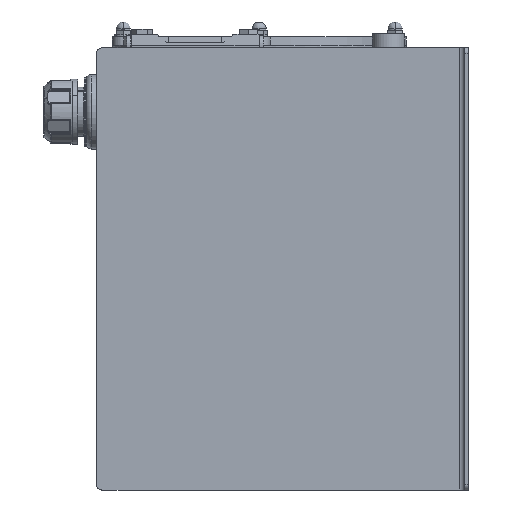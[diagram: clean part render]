
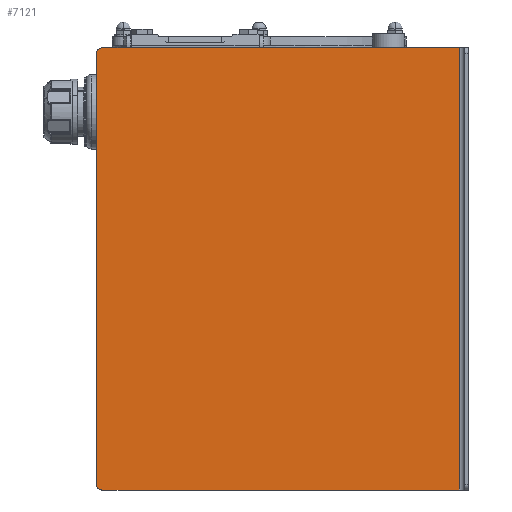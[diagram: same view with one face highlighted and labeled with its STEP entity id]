
A CAD part, left-side view. The second image highlights one B-rep face of the part: STEP entity #7121.
In plain terms, the highlighted planar face has unit normal (-1, 0, 0) as drawn and (0, 0, 1) by its records, which use the part's own axes.
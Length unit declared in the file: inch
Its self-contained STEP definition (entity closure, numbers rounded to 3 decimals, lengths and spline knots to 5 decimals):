
#187 = CARTESIAN_POINT ( 'NONE',  ( -10.375, 8.71875, 0. ) ) ;
#1103 = AXIS2_PLACEMENT_3D ( 'NONE', #5694, #23843, #23617 ) ;
#1851 = AXIS2_PLACEMENT_3D ( 'NONE', #17424, #12026, #9503 ) ;
#3019 = VECTOR ( 'NONE', #15708, 39.37008 ) ;
#3915 = ORIENTED_EDGE ( 'NONE', *, *, #9025, .T. ) ;
#4109 = CARTESIAN_POINT ( 'NONE',  ( 10.375, -8.28945, 0. ) ) ;
#5077 = ORIENTED_EDGE ( 'NONE', *, *, #33463, .T. ) ;
#5694 = CARTESIAN_POINT ( 'NONE',  ( 0., 0., 0. ) ) ;
#6539 = CIRCLE ( 'NONE', #1851, 0.25 ) ;
#6588 = CARTESIAN_POINT ( 'NONE',  ( -10.375, -8.28945, 0. ) ) ;
#6692 = LINE ( 'NONE', #4109, #33780 ) ;
#7121 = ADVANCED_FACE ( 'NONE', ( #25666 ), #13528, .F. ) ;
#7184 = ORIENTED_EDGE ( 'NONE', *, *, #17910, .T. ) ;
#7969 = CARTESIAN_POINT ( 'NONE',  ( 10.375, 8.46875, 0. ) ) ;
#8520 = VERTEX_POINT ( 'NONE', #15623 ) ;
#8975 = CARTESIAN_POINT ( 'NONE',  ( -10.375, -8.71875, 0. ) ) ;
#9025 = EDGE_CURVE ( 'NONE', #12650, #11398, #30878, .T. ) ;
#9422 = DIRECTION ( 'NONE',  ( -1., 0., 0. ) ) ;
#9503 = DIRECTION ( 'NONE',  ( -1., 0., 0. ) ) ;
#9780 = LINE ( 'NONE', #187, #24971 ) ;
#11398 = VERTEX_POINT ( 'NONE', #7969 ) ;
#11541 = EDGE_CURVE ( 'NONE', #11398, #8520, #6539, .T. ) ;
#12026 = DIRECTION ( 'NONE',  ( 0., 0., 1. ) ) ;
#12650 = VERTEX_POINT ( 'NONE', #20096 ) ;
#13528 = PLANE ( 'NONE',  #1103 ) ;
#13972 = AXIS2_PLACEMENT_3D ( 'NONE', #14686, #19968, #9422 ) ;
#14686 = CARTESIAN_POINT ( 'NONE',  ( -10.125, 8.46875, 0. ) ) ;
#15133 = ORIENTED_EDGE ( 'NONE', *, *, #21577, .F. ) ;
#15623 = CARTESIAN_POINT ( 'NONE',  ( 10.125, 8.71875, 0. ) ) ;
#15708 = DIRECTION ( 'NONE',  ( 0., 1., 0. ) ) ;
#16031 = DIRECTION ( 'NONE',  ( -1., 0., 0. ) ) ;
#16359 = VERTEX_POINT ( 'NONE', #6588 ) ;
#17161 = LINE ( 'NONE', #8975, #28623 ) ;
#17424 = CARTESIAN_POINT ( 'NONE',  ( 10.125, 8.46875, 0. ) ) ;
#17465 = ORIENTED_EDGE ( 'NONE', *, *, #11541, .T. ) ;
#17528 = CARTESIAN_POINT ( 'NONE',  ( -10.125, 8.71875, 0. ) ) ;
#17906 = CARTESIAN_POINT ( 'NONE',  ( -10.375, 8.46875, 0. ) ) ;
#17910 = EDGE_CURVE ( 'NONE', #20202, #16359, #17161, .T. ) ;
#19968 = DIRECTION ( 'NONE',  ( 0., 0., 1. ) ) ;
#20096 = CARTESIAN_POINT ( 'NONE',  ( 10.375, -8.28945, 0. ) ) ;
#20202 = VERTEX_POINT ( 'NONE', #17906 ) ;
#20880 = CARTESIAN_POINT ( 'NONE',  ( 10.375, -8.71875, 0. ) ) ;
#21577 = EDGE_CURVE ( 'NONE', #12650, #16359, #6692, .T. ) ;
#22271 = DIRECTION ( 'NONE',  ( 0., -1., 0. ) ) ;
#22598 = ORIENTED_EDGE ( 'NONE', *, *, #26779, .T. ) ;
#23617 = DIRECTION ( 'NONE',  ( -1., 0., 0. ) ) ;
#23843 = DIRECTION ( 'NONE',  ( 0., 0., -1. ) ) ;
#24971 = VECTOR ( 'NONE', #16031, 39.37008 ) ;
#25666 = FACE_OUTER_BOUND ( 'NONE', #30616, .T. ) ;
#26779 = EDGE_CURVE ( 'NONE', #30466, #20202, #33591, .T. ) ;
#27730 = DIRECTION ( 'NONE',  ( -1., 0., 0. ) ) ;
#28623 = VECTOR ( 'NONE', #22271, 39.37008 ) ;
#30466 = VERTEX_POINT ( 'NONE', #17528 ) ;
#30616 = EDGE_LOOP ( 'NONE', ( #3915, #17465, #5077, #22598, #7184, #15133 ) ) ;
#30878 = LINE ( 'NONE', #20880, #3019 ) ;
#33463 = EDGE_CURVE ( 'NONE', #8520, #30466, #9780, .T. ) ;
#33591 = CIRCLE ( 'NONE', #13972, 0.25 ) ;
#33780 = VECTOR ( 'NONE', #27730, 39.37008 ) ;
